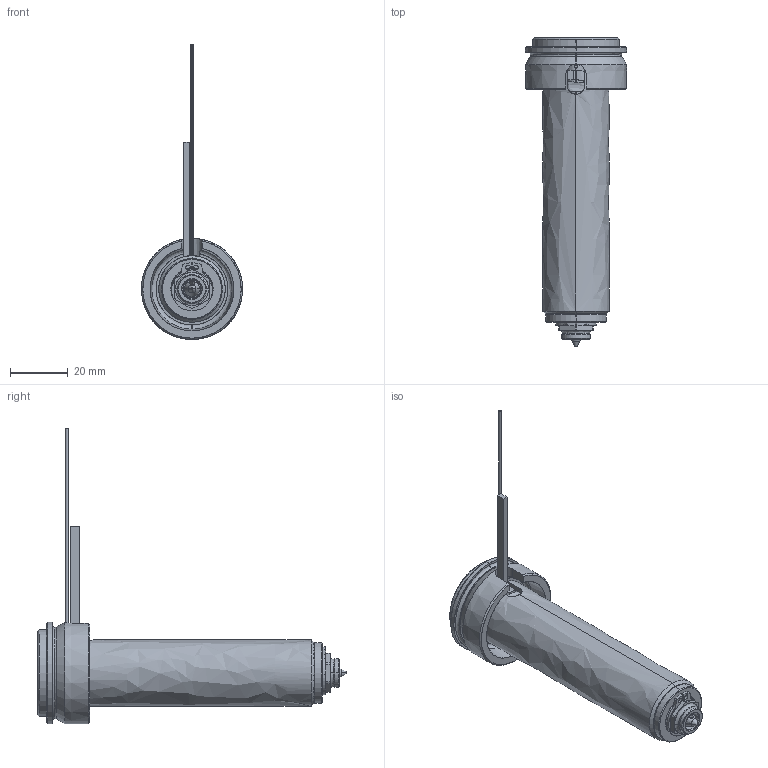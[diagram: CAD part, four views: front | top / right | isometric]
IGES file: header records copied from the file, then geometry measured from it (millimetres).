
Start section: SolidWorks IGES file using analytic representation for surfaces
Global section: file name: C:\Documents and Settings\ws-20\Desktop\TEM\UGEP3052-M-A-1 [Øf-0.70 ØC-6.0].IGS; native system: SolidWorks 2012; preprocessor: SolidWorks 2012; author: ws-20; date: 120402.112723; units: millimetre
Bounding box: 35 x 106.8 x 102.1 mm (x, y, z)
Surface area: 18311 mm2 (no closed solid volume)
Topology: 0 solids, 0 shells, 130 faces, 1848 edges, 1848 vertices
Faces by surface type: revolution 79, bspline 51
